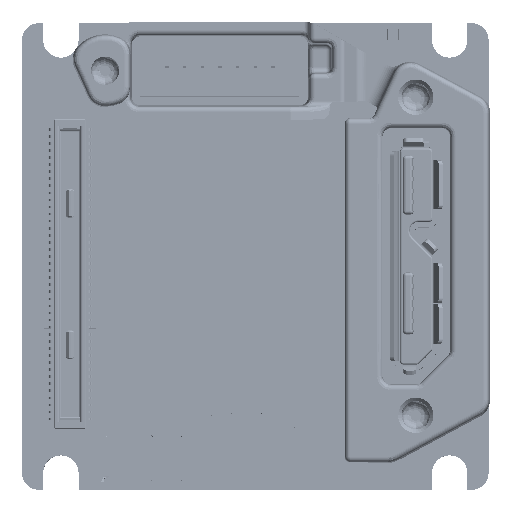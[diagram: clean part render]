
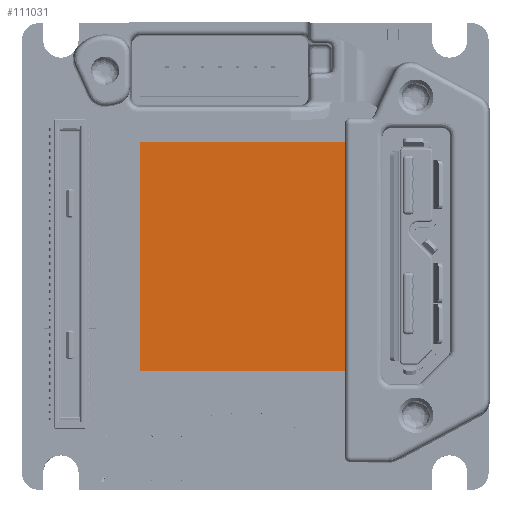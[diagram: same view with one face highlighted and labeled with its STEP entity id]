
A CAD part, top view. The second image highlights one B-rep face of the part: STEP entity #111031.
In plain terms, the highlighted planar face has unit normal (0, 0, 1).
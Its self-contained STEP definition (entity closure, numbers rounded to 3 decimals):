
#7322 = VECTOR ( 'NONE', #446211, 1000. ) ;
#26828 = EDGE_CURVE ( 'NONE', #87184, #283826, #290513, .T. ) ;
#43650 = CARTESIAN_POINT ( 'NONE',  ( 6.5, -6.5, 6.162 ) ) ;
#68147 = DIRECTION ( 'NONE',  ( 0., 1., 0. ) ) ;
#87184 = VERTEX_POINT ( 'NONE', #505280 ) ;
#102765 = LINE ( 'NONE', #451675, #7322 ) ;
#111031 = ADVANCED_FACE ( 'NONE', ( #410843 ), #197024, .F. ) ;
#119427 = CARTESIAN_POINT ( 'NONE',  ( 6.5, -6.5, 6.162 ) ) ;
#143719 = ORIENTED_EDGE ( 'NONE', *, *, #251387, .F. ) ;
#181668 = LINE ( 'NONE', #43650, #200552 ) ;
#184164 = CARTESIAN_POINT ( 'NONE',  ( -6.5, 6.5, 6.162 ) ) ;
#197024 = PLANE ( 'NONE',  #421048 ) ;
#200552 = VECTOR ( 'NONE', #426683, 1000. ) ;
#224794 = VERTEX_POINT ( 'NONE', #119427 ) ;
#244842 = DIRECTION ( 'NONE',  ( 0., -1., 0. ) ) ;
#246382 = ORIENTED_EDGE ( 'NONE', *, *, #26828, .F. ) ;
#251387 = EDGE_CURVE ( 'NONE', #301750, #224794, #102765, .T. ) ;
#268367 = VECTOR ( 'NONE', #68147, 1000. ) ;
#283826 = VERTEX_POINT ( 'NONE', #371570 ) ;
#290513 = LINE ( 'NONE', #451053, #268367 ) ;
#295338 = DIRECTION ( 'NONE',  ( 0., 0., -1. ) ) ;
#301750 = VERTEX_POINT ( 'NONE', #391085 ) ;
#319869 = EDGE_CURVE ( 'NONE', #224794, #87184, #181668, .T. ) ;
#321886 = LINE ( 'NONE', #184164, #414318 ) ;
#371570 = CARTESIAN_POINT ( 'NONE',  ( -6.5, 6.5, 6.162 ) ) ;
#380121 = ORIENTED_EDGE ( 'NONE', *, *, #319869, .F. ) ;
#387733 = ORIENTED_EDGE ( 'NONE', *, *, #483669, .F. ) ;
#391085 = CARTESIAN_POINT ( 'NONE',  ( 6.5, 6.5, 6.162 ) ) ;
#410843 = FACE_OUTER_BOUND ( 'NONE', #451180, .T. ) ;
#414318 = VECTOR ( 'NONE', #493614, 1000. ) ;
#419317 = CARTESIAN_POINT ( 'NONE',  ( 0., 0., 6.162 ) ) ;
#421048 = AXIS2_PLACEMENT_3D ( 'NONE', #419317, #295338, #244842 ) ;
#426683 = DIRECTION ( 'NONE',  ( -1., 0., 0. ) ) ;
#446211 = DIRECTION ( 'NONE',  ( 0., -1., 0. ) ) ;
#451053 = CARTESIAN_POINT ( 'NONE',  ( -6.5, -6.5, 6.162 ) ) ;
#451180 = EDGE_LOOP ( 'NONE', ( #380121, #143719, #387733, #246382 ) ) ;
#451675 = CARTESIAN_POINT ( 'NONE',  ( 6.5, 6.5, 6.162 ) ) ;
#483669 = EDGE_CURVE ( 'NONE', #283826, #301750, #321886, .T. ) ;
#493614 = DIRECTION ( 'NONE',  ( 1., 0., 0. ) ) ;
#505280 = CARTESIAN_POINT ( 'NONE',  ( -6.5, -6.5, 6.162 ) ) ;
